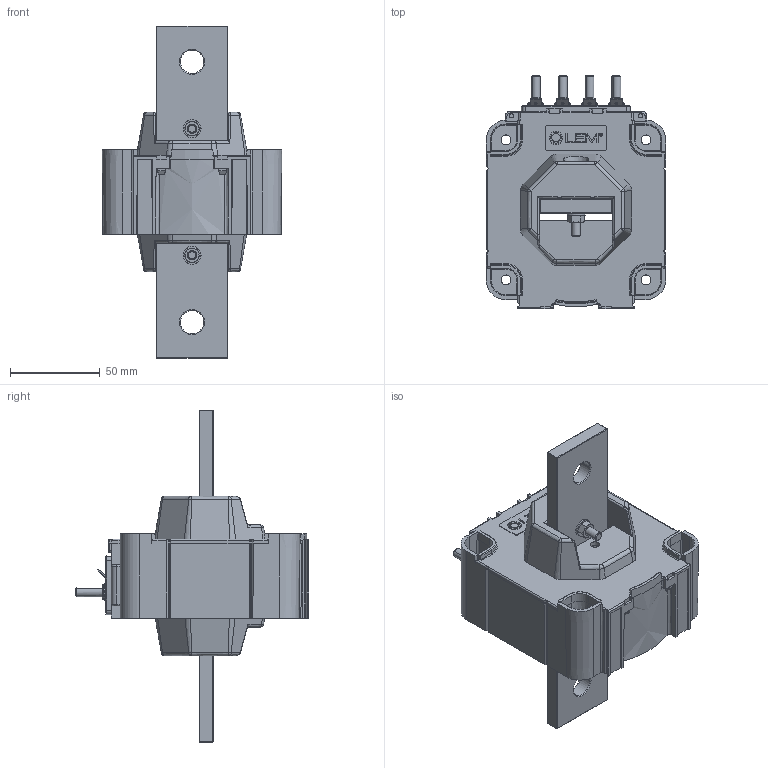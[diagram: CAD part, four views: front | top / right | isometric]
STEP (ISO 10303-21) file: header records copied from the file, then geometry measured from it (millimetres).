
FILE_DESCRIPTION(('Creo Elements/Direct Modeling STEP Export'),'2;1');
FILE_NAME('LTC 600-T.stp','2014-07-15T14:57:46',(''),(''),'Creo Elements/Direct Modeling STEP processor for AP214 (Solid Model)','Creo Elements/Direct Modeling 17.0C 05-Feb-2011 (C) Parametric Technology GmbH','');
FILE_SCHEMA(('AUTOMOTIVE_DESIGN { 1 0 10303 214 1 1 1 1 }'));
Products named in the file (2): LTC-600-T
Assembly tree (1 placements, depth 2):
  LTC-600-T
    LTC-600-T
Bounding box: 100.14 x 130 x 185 mm (x, y, z)
Volume: 434573 mm3; surface area: 121374 mm2
Topology: 1 solids, 2 shells, 2829 faces, 7581 edges, 4678 vertices
Faces by surface type: plane 1221, cylinder 613, bspline 548, cone 212, extrusion 155, torus 76, sphere 4
Entity records: 169375 total; most frequent: CARTESIAN_POINT 91630, ORIENTED_EDGE 15002, DIRECTION 10067, EDGE_CURVE 7495, VERTEX_POINT 4678, VECTOR 3917, LINE 3762, AXIS2_PLACEMENT_3D 3075
